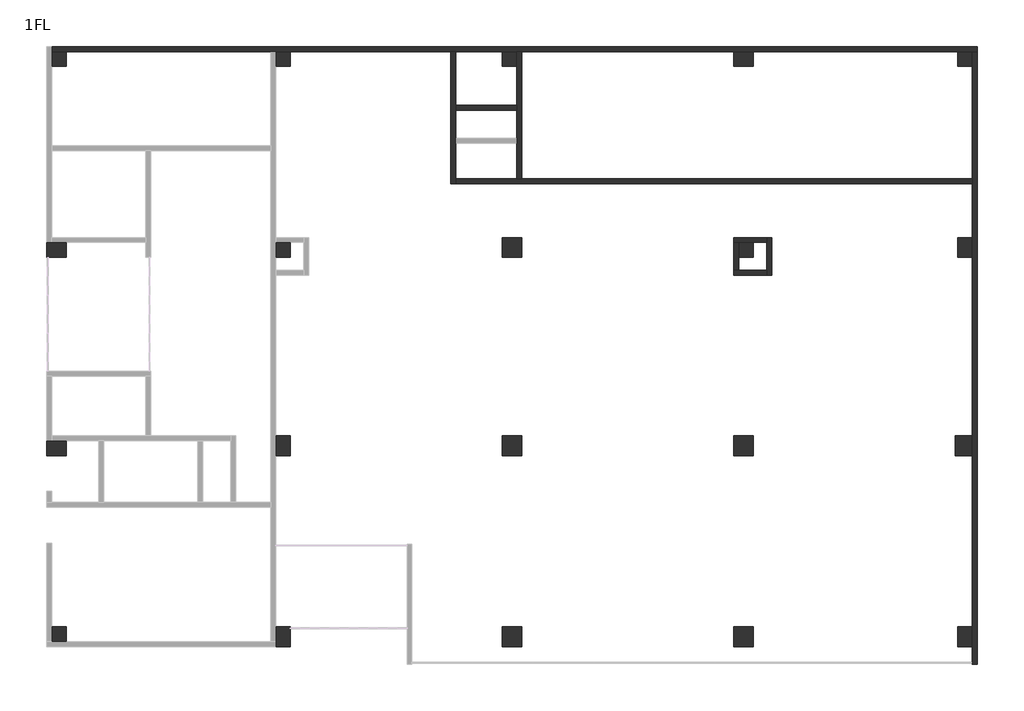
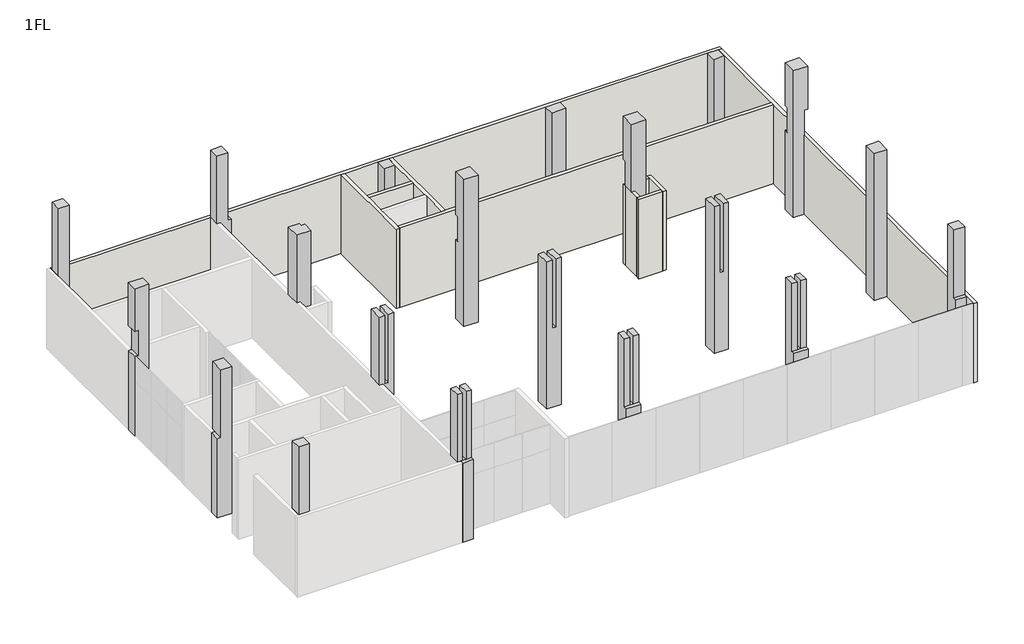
# One storey, part 2 of 2: 20 columns, 10 walls.
"""IFC4 building model written with IfcOpenShell, lengths in millimetres."""

from ifc_helpers import new_model, si_unit, frame, origin, place, context, project, spatial, polyline, outline, extrude, faceted_brep, element, save

model = new_model("IFC4")

# Units and contexts
model_context = context("Model", 3, world=origin())
ifc_project = project(units=[si_unit("LENGTHUNIT", "METRE", prefix="MILLI")], contexts=[model_context])

# Site, building, storey
site = spatial("IfcSite", under=ifc_project)
building = spatial("IfcBuilding", under=site)
storey = spatial("IfcBuildingStorey", under=building, Name="1FL", Elevation=100.0)

# Columns
placement = place(None, origin())
element("IfcColumn", 1, ObjectType="角柱 : 600 x 600mm", at=placement, inside=storey, context=model_context, shape_type="Brep", body=[
    faceted_brep([(-19091.9943915, -7385.4527426, 6600.0), (-19091.9943915, -6935.4527426, 6600.0), (-19541.9943915, -6935.4527426, 6600.0), (-19541.9943915, -7385.4527426, 6600.0), (-19091.9943915, -6935.4527426, 100.0), (-19091.9943915, -7385.4527426, 100.0), (-19541.9943915, -7385.4527426, 100.0), (-19541.9943915, -6935.4527426, 100.0), (-19541.9943915, -6935.4527426, 3600.0), (-19091.9943915, -7385.4527426, 3600.0), (-19541.9943915, -7385.4527426, 3600.0)], [[[0, 1, 2, 3]], [[4, 5, 6, 7]], [[1, 4, 7, 8, 2]], [[4, 1, 0, 9, 5]], [[5, 9, 10, 6]], [[7, 6, 10, 8]], [[0, 3, 10, 9]], [[3, 2, 8, 10]]]),
])
element("IfcColumn", 2, ObjectType="角柱 : 600 x 600mm", at=placement, inside=storey, context=model_context, shape_type="Brep", body=[
    faceted_brep([(-12316.9943915, -7385.4527426, 6600.0), (-12316.9943915, -6935.4527426, 6600.0), (-12541.9943915, -6935.4527426, 6600.0), (-12541.9943915, -7385.4527426, 6600.0), (-12316.9943915, -6935.4527426, 100.0), (-12316.9943915, -7535.4527426, 100.0), (-12766.9943915, -7535.4527426, 100.0), (-12766.9943915, -7385.4527426, 100.0), (-12766.9943915, -6935.4527426, 100.0), (-12766.9943915, -6935.4527426, 3600.0), (-12916.9943915, -6935.4527426, 3600.0), (-12916.9943915, -6935.4527426, 6600.0), (-12691.9943915, -6935.4527426, 6600.0), (-12691.9943915, -6935.4527426, 3600.0), (-12541.9943915, -6935.4527426, 3600.0), (-12916.9943915, -7385.4527426, 6600.0), (-12916.9943915, -7385.4527426, 3600.0), (-12316.9943915, -7535.4527426, 3600.0), (-12766.9943915, -7535.4527426, 3600.0), (-12316.9943915, -7385.4527426, 3600.0), (-12766.9943915, -7385.4527426, 3600.0), (-12541.9943915, -7385.4527426, 3600.0), (-12691.9943915, -7385.4527426, 3600.0), (-12691.9943915, -7385.4527426, 6600.0)], [[[0, 1, 2, 3]], [[4, 5, 6, 7, 8]], [[1, 4, 8, 9, 10, 11, 12, 13, 14, 2]], [[15, 11, 10, 16]], [[5, 17, 18, 6]], [[5, 4, 1, 0, 19, 17]], [[20, 9, 8, 7]], [[9, 20, 16, 10]], [[19, 0, 3, 21]], [[17, 19, 21, 22, 20, 18]], [[22, 13, 12, 23]], [[14, 21, 3, 2]], [[13, 22, 21, 14]], [[11, 15, 23, 12]], [[15, 16, 20, 22, 23]], [[7, 6, 18, 20]]]),
])
element("IfcColumn", 3, ObjectType="角柱 : 600 x 600mm", at=placement, inside=storey, context=model_context, shape_type="Brep", body=[
    faceted_brep([(-5316.9943915, -7385.4527426, 6600.0), (-5316.9943915, -6935.4527426, 6600.0), (-5541.9943915, -6935.4527426, 6600.0), (-5541.9943915, -7385.4527426, 6600.0), (-5316.9943915, -6935.4527426, 100.0), (-5316.9943915, -7535.4527426, 100.0), (-5916.9943915, -7535.4527426, 100.0), (-5916.9943915, -6935.4527426, 100.0), (-5916.9943915, -6935.4527426, 6600.0), (-5691.9943915, -6935.4527426, 6600.0), (-5691.9943915, -6935.4527426, 3600.0), (-5541.9943915, -6935.4527426, 3600.0), (-5916.9943915, -7535.4527426, 3600.0), (-5916.9943915, -7385.4527426, 3600.0), (-5916.9943915, -7385.4527426, 6600.0), (-5316.9943915, -7535.4527426, 3600.0), (-5316.9943915, -7385.4527426, 3600.0), (-5541.9943915, -7385.4527426, 3600.0), (-5691.9943915, -7385.4527426, 3600.0), (-5691.9943915, -7385.4527426, 6600.0)], [[[0, 1, 2, 3]], [[4, 5, 6, 7]], [[4, 7, 8, 9, 10, 11, 2, 1]], [[7, 6, 12, 13, 14, 8]], [[6, 5, 15, 12]], [[5, 4, 1, 0, 16, 15]], [[16, 0, 3, 17]], [[13, 12, 15, 16, 17, 18]], [[18, 10, 9, 19]], [[11, 17, 3, 2]], [[10, 18, 17, 11]], [[8, 14, 19, 9]], [[14, 13, 18, 19]]]),
])
element("IfcColumn", 4, ObjectType="角柱 : 600 x 600mm", at=placement, inside=storey, context=model_context, shape_type="Brep", body=[
    faceted_brep([(1683.0056085, -7385.4527426, 6600.0), (1683.0056085, -6935.4527426, 6600.0), (1458.0056085, -6935.4527426, 6600.0), (1458.0056085, -7385.4527426, 6600.0), (1683.0056085, -6935.4527426, 100.0), (1683.0056085, -7535.4527426, 100.0), (1083.0056085, -7535.4527426, 100.0), (1083.0056085, -6935.4527426, 100.0), (1083.0056085, -6935.4527426, 6600.0), (1308.0056085, -6935.4527426, 6600.0), (1308.0056085, -6935.4527426, 3600.0), (1458.0056085, -6935.4527426, 3600.0), (1083.0056085, -7535.4527426, 3600.0), (1083.0056085, -7385.4527426, 3600.0), (1083.0056085, -7385.4527426, 6600.0), (1683.0056085, -7535.4527426, 3600.0), (1683.0056085, -7385.4527426, 3600.0), (1458.0056085, -7385.4527426, 3600.0), (1308.0056085, -7385.4527426, 3600.0), (1308.0056085, -7385.4527426, 6600.0)], [[[0, 1, 2, 3]], [[4, 5, 6, 7]], [[4, 7, 8, 9, 10, 11, 2, 1]], [[7, 6, 12, 13, 14, 8]], [[6, 5, 15, 12]], [[5, 4, 1, 0, 16, 15]], [[16, 0, 3, 17]], [[13, 12, 15, 16, 17, 18]], [[18, 10, 9, 19]], [[11, 17, 3, 2]], [[10, 18, 17, 11]], [[8, 14, 19, 9]], [[14, 13, 18, 19]]]),
])
element("IfcColumn", 5, ObjectType="角柱 : 600 x 600mm", at=placement, inside=storey, context=model_context, shape_type="Brep", body=[
    faceted_brep([(7858.0056085, -6935.4527426, 6600.0), (7858.0056085, -7385.4527426, 6600.0), (8308.0056085, -7385.4527426, 6600.0), (8308.0056085, -6935.4527426, 6600.0), (7858.0056085, -7535.4527426, 100.0), (7858.0056085, -6935.4527426, 100.0), (8308.0056085, -6935.4527426, 100.0), (8308.0056085, -7535.4527426, 100.0), (8308.0056085, -6935.4527426, 3600.0), (7858.0056085, -7535.4527426, 3600.0), (7858.0056085, -7385.4527426, 3600.0), (8308.0056085, -7535.4527426, 3600.0), (8308.0056085, -7385.4527426, 3600.0)], [[[0, 1, 2, 3]], [[4, 5, 6, 7]], [[5, 0, 3, 8, 6]], [[5, 4, 9, 10, 1, 0]], [[4, 7, 11, 9]], [[7, 6, 8, 12, 11]], [[10, 12, 2, 1]], [[12, 10, 9, 11]], [[3, 2, 12, 8]]]),
])
element("IfcColumn", 6, ObjectType="角柱 : 600 x 600mm", at=placement, inside=storey, context=model_context, shape_type="Brep", body=[
    faceted_brep([(-19091.9943915, -1760.4527426, 6600.0), (-19091.9943915, -1160.4527426, 6600.0), (-19541.9943915, -1160.4527426, 6600.0), (-19541.9943915, -1760.4527426, 6600.0), (-19091.9943915, -1760.4527426, 100.0), (-19691.9943915, -1760.4527426, 100.0), (-19691.9943915, -1310.4527426, 100.0), (-19541.9943915, -1310.4527426, 100.0), (-19091.9943915, -1310.4527426, 100.0), (-19091.9943915, -1160.4527426, 3600.0), (-19541.9943915, -1160.4527426, 3600.0), (-19691.9943915, -1760.4527426, 3600.0), (-19691.9943915, -1310.4527426, 3600.0), (-19541.9943915, -1760.4527426, 3600.0), (-19091.9943915, -1310.4527426, 3600.0), (-19541.9943915, -1310.4527426, 3600.0)], [[[0, 1, 2, 3]], [[4, 5, 6, 7, 8]], [[1, 9, 10, 2]], [[6, 5, 11, 12]], [[5, 4, 0, 3, 13, 11]], [[1, 0, 4, 8, 14, 9]], [[15, 14, 8, 7]], [[14, 15, 10, 9]], [[7, 6, 12, 15]], [[15, 13, 3, 2, 10]], [[13, 15, 12, 11]]]),
])
element("IfcColumn", 7, ObjectType="角柱 : 600 x 600mm", at=placement, inside=storey, context=model_context, shape_type="SweptSolid", body=[
    extrude(outline(polyline([(100.0, -12316.9943915), (6600.0, -12316.9943915), (6600.0, -12541.9943915), (3600.0, -12541.9943915), (3600.0, -12691.9943915), (6600.0, -12691.9943915), (6600.0, -12916.9943915), (3600.0, -12916.9943915), (3600.0, -12766.9943915), (100.0, -12766.9943915), (100.0, -12316.9943915)])), frame((0.0, -1760.4527426, 0.0), z_axis=(0.0, 1.0, 0.0), x_axis=(0.0, 0.0, 1.0)), (0.0, 0.0, 1.0), 600.0),
])
element("IfcColumn", 8, ObjectType="角柱 : 600 x 600mm", at=placement, inside=storey, context=model_context, shape_type="SweptSolid", body=[
    extrude(outline(polyline([(100.0, -5916.9943915), (100.0, -5316.9943915), (6600.0, -5316.9943915), (6600.0, -5541.9943915), (3600.0, -5541.9943915), (3600.0, -5691.9943915), (6600.0, -5691.9943915), (6600.0, -5916.9943915), (100.0, -5916.9943915)])), frame((0.0, -1760.4527426, 0.0), z_axis=(0.0, 1.0, 0.0), x_axis=(0.0, 0.0, 1.0)), (0.0, 0.0, 1.0), 600.0),
])
element("IfcColumn", 9, ObjectType="角柱 : 600 x 600mm", at=placement, inside=storey, context=model_context, shape_type="SweptSolid", body=[
    extrude(outline(polyline([(100.0, 1083.0056085), (100.0, 1683.0056085), (6600.0, 1683.0056085), (6600.0, 1458.0056085), (3600.0, 1458.0056085), (3600.0, 1308.0056085), (6600.0, 1308.0056085), (6600.0, 1083.0056085), (100.0, 1083.0056085)])), frame((0.0, -1760.4527426, 0.0), z_axis=(0.0, 1.0, 0.0), x_axis=(0.0, 0.0, 1.0)), (0.0, 0.0, 1.0), 600.0),
])
element("IfcColumn", 10, ObjectType="角柱 : 600 x 600mm", at=placement, inside=storey, context=model_context, shape_type="SweptSolid", body=[
    extrude(outline(polyline([(6600.0, 7783.0056085), (100.0, 7783.0056085), (100.0, 8308.0056085), (3600.0, 8308.0056085), (6600.0, 8308.0056085), (6600.0, 7783.0056085)])), frame((0.0, -1760.4527426, 0.0), z_axis=(0.0, 1.0, 0.0), x_axis=(0.0, 0.0, 1.0)), (0.0, 0.0, 1.0), 600.0),
])
element("IfcColumn", 11, ObjectType="角柱 : 600 x 600mm", at=placement, inside=storey, context=model_context, shape_type="Brep", body=[
    faceted_brep([(-19691.9943915, 4239.5472574, 6600.0), (-19091.9943915, 4239.5472574, 6600.0), (-19091.9943915, 4689.5472574, 6600.0), (-19691.9943915, 4689.5472574, 6600.0), (-19091.9943915, 4239.5472574, 100.0), (-19691.9943915, 4239.5472574, 100.0), (-19691.9943915, 4689.5472574, 100.0), (-19541.9943915, 4689.5472574, 100.0), (-19091.9943915, 4689.5472574, 100.0), (-19691.9943915, 4689.5472574, 4700.0), (-19691.9943915, 4239.5472574, 4700.0), (-19541.9943915, 4239.5472574, 4700.0), (-19541.9943915, 4239.5472574, 3600.0), (-19691.9943915, 4239.5472574, 3600.0), (-19091.9943915, 4689.5472574, 3600.0), (-19541.9943915, 4689.5472574, 3600.0), (-19541.9943915, 4689.5472574, 4700.0), (-19691.9943915, 4689.5472574, 3600.0)], [[[0, 1, 2, 3]], [[4, 5, 6, 7, 8]], [[0, 3, 9, 10]], [[1, 0, 10, 11, 12, 13, 5, 4]], [[1, 4, 8, 14, 2]], [[8, 7, 15, 14]], [[3, 2, 14, 15, 16, 9]], [[7, 6, 17, 15]], [[11, 16, 15, 12]], [[12, 15, 17, 13]], [[16, 11, 10, 9]], [[6, 5, 13, 17]]]),
])
element("IfcColumn", 12, ObjectType="角柱 : 600 x 600mm", at=placement, inside=storey, context=model_context, shape_type="Brep", body=[
    faceted_brep([(-12916.9943915, 4839.5472574, 6600.0), (-12916.9943915, 4239.5472574, 6600.0), (-12316.9943915, 4239.5472574, 6600.0), (-12316.9943915, 4689.5472574, 6600.0), (-12466.9943915, 4689.5472574, 6600.0), (-12466.9943915, 4839.5472574, 6600.0), (-12316.9943915, 4239.5472574, 100.0), (-12766.9943915, 4239.5472574, 100.0), (-12766.9943915, 4689.5472574, 100.0), (-12316.9943915, 4689.5472574, 100.0), (-12766.9943915, 4839.5472574, 3600.0), (-12916.9943915, 4839.5472574, 3600.0), (-12466.9943915, 4839.5472574, 3600.0), (-12916.9943915, 4239.5472574, 3600.0), (-12766.9943915, 4239.5472574, 3600.0), (-12316.9943915, 4689.5472574, 3600.0), (-12766.9943915, 4689.5472574, 3600.0), (-12466.9943915, 4689.5472574, 3600.0)], [[[0, 1, 2, 3, 4, 5]], [[6, 7, 8, 9]], [[10, 11, 0, 5, 12]], [[1, 0, 11, 13]], [[2, 1, 13, 14, 7, 6]], [[2, 6, 9, 15, 3]], [[7, 14, 16, 8]], [[11, 10, 16, 14, 13]], [[5, 4, 17, 12]], [[17, 4, 3, 15]], [[16, 17, 15, 9, 8]], [[17, 16, 10, 12]]]),
])
element("IfcColumn", 13, ObjectType="角柱 : 600 x 600mm", at=placement, inside=storey, context=model_context, shape_type="SweptSolid", body=[
    extrude(outline(polyline([(4239.5472574, 6600.0), (4839.5472574, 6600.0), (4839.5472574, 4700.0), (4689.5472574, 4700.0), (4689.5472574, 3600.0), (4839.5472574, 3600.0), (4839.5472574, 100.0), (4239.5472574, 100.0), (4239.5472574, 6600.0)])), frame((-5916.9943915, 0.0, 0.0), z_axis=(1.0, 0.0, 0.0), x_axis=(0.0, 1.0, 0.0)), (0.0, 0.0, 1.0), 600.0),
])
element("IfcColumn", 14, ObjectType="角柱 : 600 x 600mm", at=placement, inside=storey, context=model_context, shape_type="Brep", body=[
    faceted_brep([(1683.0056085, 4839.5472574, 6600.0), (1083.0056085, 4839.5472574, 6600.0), (1083.0056085, 4239.5472574, 6600.0), (1683.0056085, 4239.5472574, 6600.0), (1683.0056085, 4689.5472574, 100.0), (1683.0056085, 4239.5472574, 100.0), (1233.0056085, 4239.5472574, 100.0), (1233.0056085, 4689.5472574, 100.0), (1683.0056085, 4839.5472574, 4700.0), (1083.0056085, 4839.5472574, 4700.0), (1083.0056085, 4689.5472574, 4700.0), (1083.0056085, 4689.5472574, 3600.0), (1083.0056085, 4239.5472574, 3600.0), (1233.0056085, 4239.5472574, 3600.0), (1683.0056085, 4689.5472574, 3600.0), (1683.0056085, 4689.5472574, 4700.0), (1233.0056085, 4689.5472574, 3600.0)], [[[0, 1, 2, 3]], [[4, 5, 6, 7]], [[1, 0, 8, 9]], [[2, 1, 9, 10, 11, 12]], [[3, 2, 12, 13, 6, 5]], [[0, 3, 5, 4, 14, 15, 8]], [[10, 15, 14, 16, 11]], [[15, 10, 9, 8]], [[14, 4, 7, 16]], [[13, 16, 7, 6]], [[16, 13, 12, 11]]]),
])
element("IfcColumn", 15, ObjectType="角柱 : 600 x 600mm", at=placement, inside=storey, context=model_context, shape_type="Brep", body=[
    faceted_brep([(8458.0056085, 4839.5472574, 6600.0), (7858.0056085, 4839.5472574, 6600.0), (7858.0056085, 4239.5472574, 6600.0), (8458.0056085, 4239.5472574, 6600.0), (7858.0056085, 4239.5472574, 100.0), (7858.0056085, 4839.5472574, 100.0), (8308.0056085, 4839.5472574, 100.0), (8308.0056085, 4239.5472574, 100.0), (8458.0056085, 4839.5472574, 4700.0), (7858.0056085, 4839.5472574, 4700.0), (7858.0056085, 4689.5472574, 4700.0), (7858.0056085, 4689.5472574, 3600.0), (7858.0056085, 4839.5472574, 3600.0), (8308.0056085, 4239.5472574, 3600.0), (8308.0056085, 4239.5472574, 4700.0), (8458.0056085, 4239.5472574, 4700.0), (8458.0056085, 4689.5472574, 4700.0), (8308.0056085, 4839.5472574, 3600.0), (8308.0056085, 4689.5472574, 3600.0), (8308.0056085, 4689.5472574, 4700.0)], [[[0, 1, 2, 3]], [[4, 5, 6, 7]], [[1, 0, 8, 9]], [[2, 1, 9, 10, 11, 12, 5, 4]], [[3, 2, 4, 7, 13, 14, 15]], [[0, 3, 15, 16, 8]], [[7, 6, 17, 18, 13]], [[11, 10, 19, 18]], [[12, 11, 18, 17]], [[10, 9, 8, 16, 19]], [[6, 5, 12, 17]], [[19, 14, 13, 18]], [[14, 19, 16, 15]]]),
])
element("IfcColumn", 16, ObjectType="角柱 : 600 x 600mm", at=placement, inside=storey, context=model_context, shape_type="Brep", body=[
    faceted_brep([(-19541.9943915, 10014.5472574, 6600.0), (-19091.9943915, 10014.5472574, 6600.0), (-19091.9943915, 10464.5472574, 6600.0), (-19541.9943915, 10464.5472574, 6600.0), (-19091.9943915, 10464.5472574, 100.0), (-19091.9943915, 10014.5472574, 100.0), (-19541.9943915, 10014.5472574, 100.0), (-19541.9943915, 10464.5472574, 100.0), (-19541.9943915, 10014.5472574, 3600.0), (-19091.9943915, 10464.5472574, 3600.0), (-19541.9943915, 10464.5472574, 3600.0)], [[[0, 1, 2, 3]], [[4, 5, 6, 7]], [[5, 1, 0, 8, 6]], [[1, 5, 4, 9, 2]], [[4, 7, 10, 9]], [[7, 6, 8, 10]], [[8, 0, 3, 10]], [[3, 2, 9, 10]]]),
])
element("IfcColumn", 17, ObjectType="角柱 : 600 x 600mm", at=placement, inside=storey, context=model_context, shape_type="Brep", body=[
    faceted_brep([(-12916.9943915, 10464.5472574, 6600.0), (-12916.9943915, 10014.5472574, 6600.0), (-12466.9943915, 10014.5472574, 6600.0), (-12466.9943915, 10464.5472574, 6600.0), (-12316.9943915, 10464.5472574, 100.0), (-12316.9943915, 10014.5472574, 100.0), (-12766.9943915, 10014.5472574, 100.0), (-12766.9943915, 10464.5472574, 100.0), (-12916.9943915, 10464.5472574, 3600.0), (-12916.9943915, 10014.5472574, 3600.0), (-12316.9943915, 10014.5472574, 3600.0), (-12466.9943915, 10014.5472574, 3600.0), (-12766.9943915, 10014.5472574, 3600.0), (-12316.9943915, 10464.5472574, 3600.0), (-12766.9943915, 10464.5472574, 3600.0), (-12466.9943915, 10464.5472574, 3600.0)], [[[0, 1, 2, 3]], [[4, 5, 6, 7]], [[8, 9, 1, 0]], [[6, 5, 10, 11, 2, 1, 9, 12]], [[5, 4, 13, 10]], [[13, 4, 7, 14, 15]], [[12, 14, 7, 6]], [[14, 12, 9, 8]], [[8, 0, 3, 15, 14]], [[11, 15, 3, 2]], [[15, 11, 10, 13]]]),
])
element("IfcColumn", 18, ObjectType="角柱 : 600 x 600mm", at=placement, inside=storey, context=model_context, shape_type="SweptSolid", body=[
    extrude(outline(polyline([(-5916.9943915, 10014.5472574), (-5916.9943915, 10464.5472574), (-5466.9943915, 10464.5472574), (-5466.9943915, 10014.5472574), (-5916.9943915, 10014.5472574)])), frame((0.0, 0.0, 100.0), z_axis=(0.0, 0.0, 1.0), x_axis=(1.0, 0.0, 0.0)), (0.0, 0.0, 1.0), 3500.0),
])
element("IfcColumn", 19, ObjectType="角柱 : 600 x 600mm", at=placement, inside=storey, context=model_context, shape_type="SweptSolid", body=[
    extrude(outline(polyline([(1683.0056085, 10014.5472574), (1083.0056085, 10014.5472574), (1083.0056085, 10464.5472574), (1683.0056085, 10464.5472574), (1683.0056085, 10014.5472574)])), frame((0.0, 0.0, 100.0), z_axis=(0.0, 0.0, 1.0), x_axis=(1.0, 0.0, 0.0)), (0.0, 0.0, 1.0), 3500.0),
])
element("IfcColumn", 20, ObjectType="角柱 : 600 x 600mm", at=placement, inside=storey, context=model_context, shape_type="SweptSolid", body=[
    extrude(outline(polyline([(7858.0056085, 10014.5472574), (7858.0056085, 10464.5472574), (8308.0056085, 10464.5472574), (8308.0056085, 10014.5472574), (7858.0056085, 10014.5472574)])), frame((0.0, 0.0, 100.0), z_axis=(0.0, 0.0, 1.0), x_axis=(1.0, 0.0, 0.0)), (0.0, 0.0, 1.0), 3500.0),
])

# Walls
element("IfcWall", 21, ObjectType="標準-150mm", at=placement, inside=storey, context=model_context, shape_type="Brep", body=[
    faceted_brep([(-19541.9943915, 10464.5472574, 100.0), (-19091.9943915, 10464.5472574, 100.0), (-12916.9943915, 10464.5472574, 100.0), (-12766.9943915, 10464.5472574, 100.0), (-12316.9943915, 10464.5472574, 100.0), (-7466.9943915, 10464.5472574, 100.0), (-7316.9943915, 10464.5472574, 100.0), (-5916.9943915, 10464.5472574, 100.0), (-5466.9943915, 10464.5472574, 100.0), (-5316.9943915, 10464.5472574, 100.0), (1083.0056085, 10464.5472574, 100.0), (1683.0056085, 10464.5472574, 100.0), (7858.0056085, 10464.5472574, 100.0), (8308.0056085, 10464.5472574, 100.0), (8458.0056085, 10464.5472574, 100.0), (8458.0056085, 10464.5472574, 3600.0), (8308.0056085, 10464.5472574, 3600.0), (7858.0056085, 10464.5472574, 3600.0), (1683.0056085, 10464.5472574, 3600.0), (1083.0056085, 10464.5472574, 3600.0), (-5316.9943915, 10464.5472574, 3600.0), (-5466.9943915, 10464.5472574, 3600.0), (-5916.9943915, 10464.5472574, 3600.0), (-7316.9943915, 10464.5472574, 3600.0), (-7466.9943915, 10464.5472574, 3600.0), (-12316.9943915, 10464.5472574, 3600.0), (-12466.9943915, 10464.5472574, 3600.0), (-12766.9943915, 10464.5472574, 3600.0), (-12916.9943915, 10464.5472574, 3600.0), (-19541.9943915, 10464.5472574, 3600.0), (-19541.9943915, 10614.5472574, 100.0), (-19541.9943915, 10614.5472574, 3600.0), (8458.0056085, 10614.5472574, 3600.0), (8458.0056085, 10614.5472574, 100.0)], [[[0, 1, 2, 3, 4, 5, 6, 7, 8, 9, 10, 11, 12, 13, 14, 15, 16, 17, 18, 19, 20, 21, 22, 23, 24, 25, 26, 27, 28, 29]], [[30, 31, 32, 33]], [[14, 13, 12, 11, 10, 9, 8, 7, 6, 5, 4, 3, 2, 1, 0, 30, 33]], [[29, 28, 27, 26, 25, 24, 23, 22, 21, 20, 19, 18, 17, 16, 15, 32, 31]], [[0, 29, 31, 30]], [[15, 14, 33, 32]]]),
])
element("IfcWall", 22, ObjectType="標準-150mm", at=placement, inside=storey, context=model_context, shape_type="Brep", body=[
    faceted_brep([(8308.0056085, 10464.5472574, 100.0), (8308.0056085, 10014.5472574, 100.0), (8308.0056085, 6614.5472574, 100.0), (8308.0056085, 6464.5472574, 100.0), (8308.0056085, 4839.5472574, 100.0), (8308.0056085, 4239.5472574, 100.0), (8308.0056085, -1160.4527426, 100.0), (8308.0056085, -1760.4527426, 100.0), (8308.0056085, -6935.4527426, 100.0), (8308.0056085, -7535.4527426, 100.0), (8308.0056085, -8060.4527426, 100.0), (8308.0056085, -8060.4527426, 3600.0), (8308.0056085, -7535.4527426, 3600.0), (8308.0056085, -7385.4527426, 3600.0), (8308.0056085, 4689.5472574, 3600.0), (8308.0056085, 4839.5472574, 3600.0), (8308.0056085, 6464.5472574, 3600.0), (8308.0056085, 6614.5472574, 3600.0), (8308.0056085, 10014.5472574, 3600.0), (8308.0056085, 10464.5472574, 3600.0), (8458.0056085, 10464.5472574, 100.0), (8458.0056085, 10464.5472574, 3600.0), (8458.0056085, -8060.4527426, 3600.0), (8458.0056085, -8060.4527426, 100.0)], [[[0, 1, 2, 3, 4, 5, 6, 7, 8, 9, 10, 11, 12, 13, 14, 15, 16, 17, 18, 19]], [[20, 21, 22, 23]], [[10, 9, 8, 7, 6, 5, 4, 3, 2, 1, 0, 20, 23]], [[11, 10, 23, 22]], [[19, 18, 17, 16, 15, 14, 13, 12, 11, 22, 21]], [[0, 19, 21, 20]]]),
])
element("IfcWall", 23, ObjectType="標準-150mm", at=placement, inside=storey, context=model_context, shape_type="Brep", body=[
    faceted_brep([(-7316.9943915, 6464.5472574, 100.0), (8308.0056085, 6464.5472574, 100.0), (8308.0056085, 6464.5472574, 3600.0), (-7316.9943915, 6464.5472574, 3600.0), (-7316.9943915, 6614.5472574, 100.0), (-7316.9943915, 6614.5472574, 3600.0), (-5466.9943915, 6614.5472574, 3600.0), (-5316.9943915, 6614.5472574, 3600.0), (8308.0056085, 6614.5472574, 3600.0), (8308.0056085, 6614.5472574, 100.0), (-5316.9943915, 6614.5472574, 100.0), (-5466.9943915, 6614.5472574, 100.0)], [[[0, 1, 2, 3]], [[4, 5, 6, 7, 8, 9, 10, 11]], [[1, 0, 4, 11, 10, 9]], [[3, 2, 8, 7, 6, 5]], [[2, 1, 9, 8]], [[0, 3, 5, 4]]]),
])
element("IfcWall", 24, ObjectType="標準-150mm", at=placement, inside=storey, context=model_context, shape_type="Brep", body=[
    faceted_brep([(-5466.9943915, 10464.5472574, 100.0), (-5466.9943915, 10014.5472574, 100.0), (-5466.9943915, 8839.5472574, 100.0), (-5466.9943915, 8689.5472574, 100.0), (-5466.9943915, 7839.5472574, 100.0), (-5466.9943915, 7689.5472574, 100.0), (-5466.9943915, 6614.5472574, 100.0), (-5466.9943915, 6614.5472574, 3600.0), (-5466.9943915, 7689.5472574, 3600.0), (-5466.9943915, 7839.5472574, 3600.0), (-5466.9943915, 8689.5472574, 3600.0), (-5466.9943915, 8839.5472574, 3600.0), (-5466.9943915, 10014.5472574, 3600.0), (-5466.9943915, 10464.5472574, 3600.0), (-5316.9943915, 10464.5472574, 100.0), (-5316.9943915, 10464.5472574, 3600.0), (-5316.9943915, 6614.5472574, 3600.0), (-5316.9943915, 6614.5472574, 100.0)], [[[0, 1, 2, 3, 4, 5, 6, 7, 8, 9, 10, 11, 12, 13]], [[14, 15, 16, 17]], [[6, 5, 4, 3, 2, 1, 0, 14, 17]], [[13, 12, 11, 10, 9, 8, 7, 16, 15]], [[0, 13, 15, 14]], [[7, 6, 17, 16]]]),
])
element("IfcWall", 25, ObjectType="標準-150mm", at=placement, inside=storey, context=model_context, shape_type="Brep", body=[
    faceted_brep([(-7466.9943915, 10464.5472574, 100.0), (-7466.9943915, 6464.5472574, 100.0), (-7466.9943915, 6464.5472574, 3600.0), (-7466.9943915, 10464.5472574, 3600.0), (-7316.9943915, 10464.5472574, 100.0), (-7316.9943915, 10464.5472574, 3600.0), (-7316.9943915, 8839.5472574, 3600.0), (-7316.9943915, 8689.5472574, 3600.0), (-7316.9943915, 7839.5472574, 3600.0), (-7316.9943915, 7689.5472574, 3600.0), (-7316.9943915, 6614.5472574, 3600.0), (-7316.9943915, 6464.5472574, 3600.0), (-7316.9943915, 6464.5472574, 100.0), (-7316.9943915, 6614.5472574, 100.0), (-7316.9943915, 7689.5472574, 100.0), (-7316.9943915, 7839.5472574, 100.0), (-7316.9943915, 8689.5472574, 100.0), (-7316.9943915, 8839.5472574, 100.0)], [[[0, 1, 2, 3]], [[4, 5, 6, 7, 8, 9, 10, 11, 12, 13, 14, 15, 16, 17]], [[1, 0, 4, 17, 16, 15, 14, 13, 12]], [[3, 2, 11, 10, 9, 8, 7, 6, 5]], [[0, 3, 5, 4]], [[2, 1, 12, 11]]]),
])
element("IfcWall", 26, ObjectType="標準-150mm", at=placement, inside=storey, context=model_context, shape_type="SweptSolid", body=[
    extrude(outline(polyline([(-5466.9943915, 8689.5472574), (-7316.9943915, 8689.5472574), (-7316.9943915, 8839.5472574), (-5466.9943915, 8839.5472574), (-5466.9943915, 8689.5472574)])), frame((0.0, 0.0, 100.0), z_axis=(0.0, 0.0, 1.0), x_axis=(1.0, 0.0, 0.0)), (0.0, 0.0, 1.0), 3500.0),
])
element("IfcWall", 27, ObjectType="標準-150mm", at=placement, inside=storey, context=model_context, shape_type="Brep", body=[
    faceted_brep([(2083.0056085, 4839.5472574, 100.0), (2083.0056085, 4689.5472574, 100.0), (2083.0056085, 3844.5472574, 100.0), (2083.0056085, 3694.5472574, 100.0), (2083.0056085, 3694.5472574, 3600.0), (2083.0056085, 3844.5472574, 3600.0), (2083.0056085, 4689.5472574, 3600.0), (2083.0056085, 4839.5472574, 3600.0), (2233.0056085, 4839.5472574, 100.0), (2233.0056085, 4839.5472574, 3600.0), (2233.0056085, 3694.5472574, 3600.0), (2233.0056085, 3694.5472574, 100.0)], [[[0, 1, 2, 3, 4, 5, 6, 7]], [[8, 9, 10, 11]], [[3, 2, 1, 0, 8, 11]], [[7, 6, 5, 4, 10, 9]], [[4, 3, 11, 10]], [[0, 7, 9, 8]]]),
])
element("IfcWall", 28, ObjectType="標準-150mm", at=placement, inside=storey, context=model_context, shape_type="Brep", body=[
    faceted_brep([(2083.0056085, 3844.5472574, 100.0), (1233.0056085, 3844.5472574, 100.0), (1083.0056085, 3844.5472574, 100.0), (1083.0056085, 3844.5472574, 3600.0), (1233.0056085, 3844.5472574, 3600.0), (2083.0056085, 3844.5472574, 3600.0), (2083.0056085, 3694.5472574, 100.0), (2083.0056085, 3694.5472574, 3600.0), (1083.0056085, 3694.5472574, 3600.0), (1083.0056085, 3694.5472574, 100.0)], [[[0, 1, 2, 3, 4, 5]], [[6, 7, 8, 9]], [[2, 1, 0, 6, 9]], [[5, 4, 3, 8, 7]], [[0, 5, 7, 6]], [[3, 2, 9, 8]]]),
])
element("IfcWall", 29, ObjectType="標準-150mm", at=placement, inside=storey, context=model_context, shape_type="Brep", body=[
    faceted_brep([(1083.0056085, 4689.5472574, 100.0), (1233.0056085, 4689.5472574, 100.0), (1683.0056085, 4689.5472574, 100.0), (2083.0056085, 4689.5472574, 100.0), (2083.0056085, 4689.5472574, 3600.0), (1233.0056085, 4689.5472574, 3600.0), (1083.0056085, 4689.5472574, 3600.0), (1083.0056085, 4839.5472574, 100.0), (1083.0056085, 4839.5472574, 3600.0), (2083.0056085, 4839.5472574, 3600.0), (2083.0056085, 4839.5472574, 100.0)], [[[0, 1, 2, 3, 4, 5, 6]], [[7, 8, 9, 10]], [[3, 2, 1, 0, 7, 10]], [[6, 5, 4, 9, 8]], [[4, 3, 10, 9]], [[0, 6, 8, 7]]]),
])
element("IfcWall", 30, ObjectType="標準-150mm", at=placement, inside=storey, context=model_context, shape_type="Brep", body=[
    faceted_brep([(1083.0056085, 4689.5472574, 100.0), (1083.0056085, 3844.5472574, 100.0), (1083.0056085, 3844.5472574, 3600.0), (1083.0056085, 4239.5472574, 3600.0), (1083.0056085, 4689.5472574, 3600.0), (1233.0056085, 4689.5472574, 100.0), (1233.0056085, 4689.5472574, 3600.0), (1233.0056085, 4239.5472574, 3600.0), (1233.0056085, 3844.5472574, 3600.0), (1233.0056085, 3844.5472574, 100.0), (1233.0056085, 4239.5472574, 100.0)], [[[0, 1, 2, 3, 4]], [[5, 6, 7, 8, 9, 10]], [[1, 0, 5, 10, 9]], [[4, 3, 2, 8, 7, 6]], [[2, 1, 9, 8]], [[0, 4, 6, 5]]]),
])

save(model, "model.ifc")
